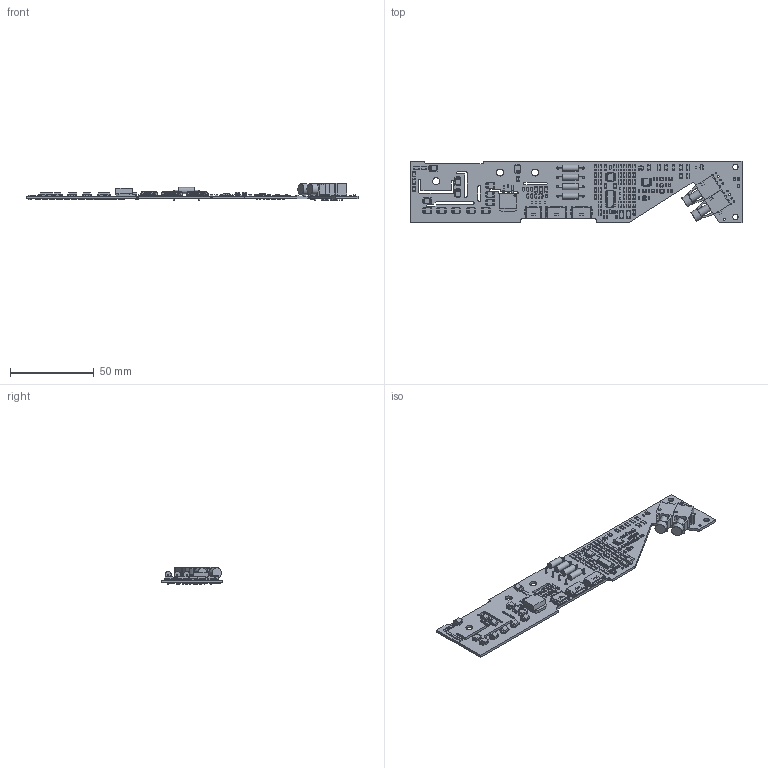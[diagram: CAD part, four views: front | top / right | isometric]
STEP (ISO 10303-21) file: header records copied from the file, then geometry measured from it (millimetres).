
FILE_DESCRIPTION(/* description */ ('Alibre Inc.'),/* implementation_level */ '2;1');
FILE_NAME(/* name */ 'export0',/* time_stamp */ '2015-02-17T13:08:34+01:00',/* author */ (''),/* organization */ (''),/* preprocessor_version */ 'ST-DEVELOPER v14',/* originating_system */ 'Alibre',/* authorisation */ '');
FILE_SCHEMA (('AUTOMOTIVE_DESIGN'));
Length unit declared in the file: millimetre
Bounding box: 198.12 x 36.96 x 10.2 mm (x, y, z)
Volume: 14251.4 mm3; surface area: 23216 mm2
Topology: 544 solids, 544 shells, 10255 faces, 25502 edges, 16013 vertices
Faces by surface type: plane 7578, cylinder 2123, bspline 498, cone 38, torus 16, revolution 2
Full cylindrical faces by diameter (mm): 0.15 x1, 0.2 x4, 0.5 x2, 0.509 x8, 0.6 x24, 0.64 x4, 1 x30, 1.3 x9, 3.2 x2, 3.65 x4, 4.2 x3, 4.4 x2, 6.5 x2
Entity records: 103797 total; most frequent: CARTESIAN_POINT 19973, ORIENTED_EDGE 16104, DIRECTION 14796, EDGE_CURVE 8052, VECTOR 6439, LINE 6439, AXIS2_PLACEMENT_3D 5291, VERTEX_POINT 5235
